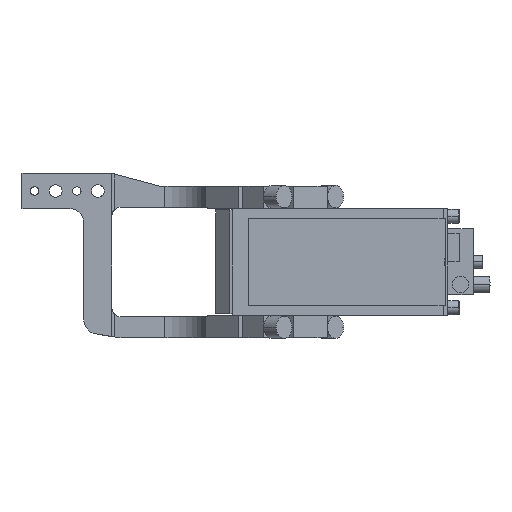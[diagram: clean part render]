
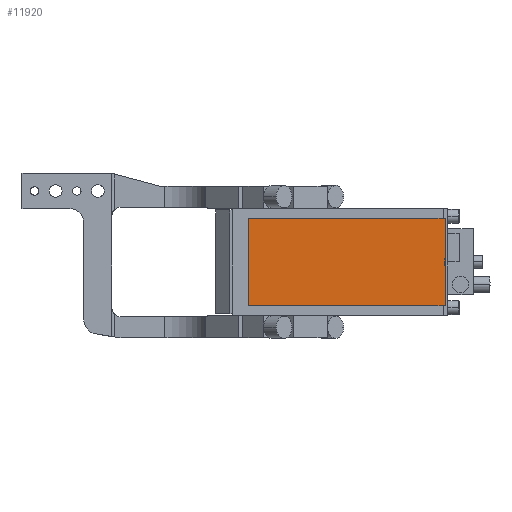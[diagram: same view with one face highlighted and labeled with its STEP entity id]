
A CAD part, left-side view. The second image highlights one B-rep face of the part: STEP entity #11920.
In plain terms, the highlighted planar face has unit normal (-1, 0, 0).
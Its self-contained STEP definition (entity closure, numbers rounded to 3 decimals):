
#253 = CARTESIAN_POINT ( 'NONE',  ( -402., 18., 31. ) ) ;
#588 = CARTESIAN_POINT ( 'NONE',  ( -402., 18., -31. ) ) ;
#626 = VECTOR ( 'NONE', #2243, 1000. ) ;
#755 = ORIENTED_EDGE ( 'NONE', *, *, #6184, .T. ) ;
#1116 = DIRECTION ( 'NONE',  ( 0., 0., 1. ) ) ;
#2243 = DIRECTION ( 'NONE',  ( 0., 1., 0. ) ) ;
#2688 = DIRECTION ( 'NONE',  ( 0., -1., 0. ) ) ;
#3075 = VECTOR ( 'NONE', #2688, 1000. ) ;
#3730 = EDGE_CURVE ( 'NONE', #5491, #14438, #7586, .T. ) ;
#3871 = ORIENTED_EDGE ( 'NONE', *, *, #4354, .T. ) ;
#4165 = CARTESIAN_POINT ( 'NONE',  ( -402., -122., -31. ) ) ;
#4354 = EDGE_CURVE ( 'NONE', #14438, #4962, #14931, .T. ) ;
#4454 = CARTESIAN_POINT ( 'NONE',  ( -402., 18., 0. ) ) ;
#4671 = EDGE_LOOP ( 'NONE', ( #5907, #6304, #3871, #755 ) ) ;
#4962 = VERTEX_POINT ( 'NONE', #253 ) ;
#5235 = CARTESIAN_POINT ( 'NONE',  ( -402., -52., -31. ) ) ;
#5491 = VERTEX_POINT ( 'NONE', #4165 ) ;
#5907 = ORIENTED_EDGE ( 'NONE', *, *, #6857, .T. ) ;
#5919 = AXIS2_PLACEMENT_3D ( 'NONE', #14610, #9838, #15925 ) ;
#6184 = EDGE_CURVE ( 'NONE', #4962, #10743, #15816, .T. ) ;
#6304 = ORIENTED_EDGE ( 'NONE', *, *, #3730, .T. ) ;
#6828 = DIRECTION ( 'NONE',  ( 0., 0., -1. ) ) ;
#6857 = EDGE_CURVE ( 'NONE', #10743, #5491, #9057, .T. ) ;
#7566 = CARTESIAN_POINT ( 'NONE',  ( -402., -52., 31. ) ) ;
#7586 = LINE ( 'NONE', #11332, #15954 ) ;
#8437 = VECTOR ( 'NONE', #6828, 1000. ) ;
#9057 = LINE ( 'NONE', #5235, #3075 ) ;
#9838 = DIRECTION ( 'NONE',  ( -1., 0., 0. ) ) ;
#10743 = VERTEX_POINT ( 'NONE', #588 ) ;
#10825 = FACE_OUTER_BOUND ( 'NONE', #4671, .T. ) ;
#11210 = CARTESIAN_POINT ( 'NONE',  ( -402., -122., 31. ) ) ;
#11332 = CARTESIAN_POINT ( 'NONE',  ( -402., -122., 0. ) ) ;
#11920 = ADVANCED_FACE ( 'NONE', ( #10825 ), #14847, .T. ) ;
#14438 = VERTEX_POINT ( 'NONE', #11210 ) ;
#14610 = CARTESIAN_POINT ( 'NONE',  ( -402., 0., 0. ) ) ;
#14847 = PLANE ( 'NONE',  #5919 ) ;
#14931 = LINE ( 'NONE', #7566, #626 ) ;
#15816 = LINE ( 'NONE', #4454, #8437 ) ;
#15925 = DIRECTION ( 'NONE',  ( 0., 0., 1. ) ) ;
#15954 = VECTOR ( 'NONE', #1116, 1000. ) ;
